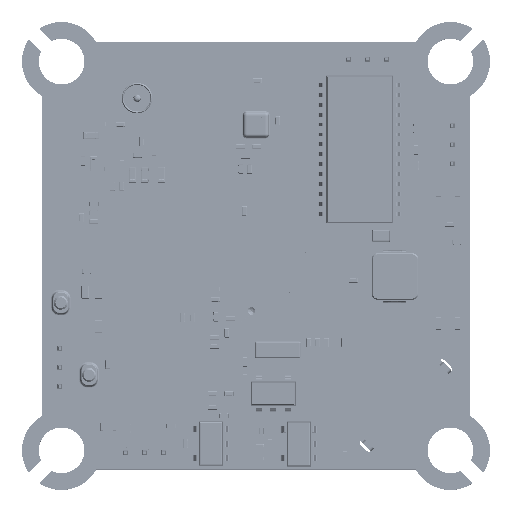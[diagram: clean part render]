
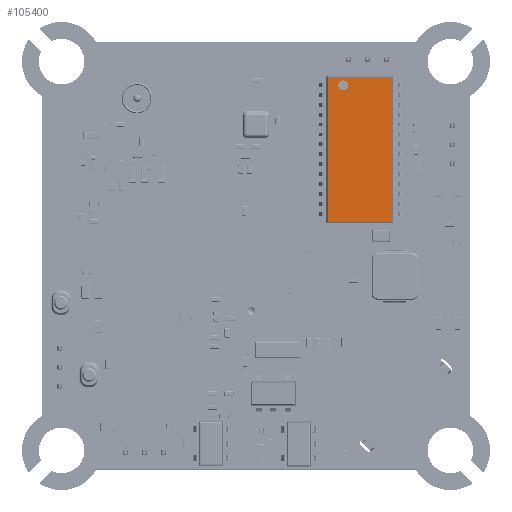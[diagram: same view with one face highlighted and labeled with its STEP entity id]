
A CAD part, top view. The second image highlights one B-rep face of the part: STEP entity #105400.
In plain terms, the highlighted planar face has unit normal (0, 0, 1).
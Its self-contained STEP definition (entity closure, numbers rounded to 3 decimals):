
#105035 = VERTEX_POINT('',#105036);
#105036 = CARTESIAN_POINT('',(3.86,1.065,1.2));
#105054 = VERTEX_POINT('',#105055);
#105055 = CARTESIAN_POINT('',(4.52,1.065,1.2));
#105061 = EDGE_CURVE('',#105054,#105035,#105062,.T.);
#105062 = CIRCLE('',#105063,0.33);
#105063 = AXIS2_PLACEMENT_3D('',#105064,#105065,#105066);
#105064 = CARTESIAN_POINT('',(4.19,1.065,1.2));
#105065 = DIRECTION('',(0.,0.,-1.));
#105066 = DIRECTION('',(-1.,0.,0.));
#105309 = VERTEX_POINT('',#105310);
#105310 = CARTESIAN_POINT('',(-4.75,2.1,1.2));
#105316 = EDGE_CURVE('',#105309,#105317,#105319,.T.);
#105317 = VERTEX_POINT('',#105318);
#105318 = CARTESIAN_POINT('',(4.75,2.1,1.2));
#105319 = LINE('',#105320,#105321);
#105320 = CARTESIAN_POINT('',(2.425,2.1,1.2));
#105321 = VECTOR('',#105322,1.);
#105322 = DIRECTION('',(1.,0.,0.));
#105342 = VERTEX_POINT('',#105343);
#105343 = CARTESIAN_POINT('',(-4.75,-2.1,1.2));
#105349 = EDGE_CURVE('',#105342,#105309,#105350,.T.);
#105350 = LINE('',#105351,#105352);
#105351 = CARTESIAN_POINT('',(-4.75,1.1,1.2));
#105352 = VECTOR('',#105353,1.);
#105353 = DIRECTION('',(0.,1.,-0.));
#105366 = VERTEX_POINT('',#105367);
#105367 = CARTESIAN_POINT('',(4.75,-2.1,1.2));
#105373 = EDGE_CURVE('',#105366,#105342,#105374,.T.);
#105374 = LINE('',#105375,#105376);
#105375 = CARTESIAN_POINT('',(-2.425,-2.1,1.2));
#105376 = VECTOR('',#105377,1.);
#105377 = DIRECTION('',(-1.,0.,0.));
#105390 = EDGE_CURVE('',#105317,#105366,#105391,.T.);
#105391 = LINE('',#105392,#105393);
#105392 = CARTESIAN_POINT('',(4.75,-1.1,1.2));
#105393 = VECTOR('',#105394,1.);
#105394 = DIRECTION('',(0.,-1.,0.));
#105400 = ADVANCED_FACE('',(#105401,#105411),#105417,.T.);
#105401 = FACE_BOUND('',#105402,.T.);
#105402 = EDGE_LOOP('',(#105403,#105410));
#105403 = ORIENTED_EDGE('',*,*,#105404,.T.);
#105404 = EDGE_CURVE('',#105035,#105054,#105405,.T.);
#105405 = CIRCLE('',#105406,0.33);
#105406 = AXIS2_PLACEMENT_3D('',#105407,#105408,#105409);
#105407 = CARTESIAN_POINT('',(4.19,1.065,1.2));
#105408 = DIRECTION('',(0.,0.,-1.));
#105409 = DIRECTION('',(-1.,0.,0.));
#105410 = ORIENTED_EDGE('',*,*,#105061,.T.);
#105411 = FACE_BOUND('',#105412,.T.);
#105412 = EDGE_LOOP('',(#105413,#105414,#105415,#105416));
#105413 = ORIENTED_EDGE('',*,*,#105349,.F.);
#105414 = ORIENTED_EDGE('',*,*,#105373,.F.);
#105415 = ORIENTED_EDGE('',*,*,#105390,.F.);
#105416 = ORIENTED_EDGE('',*,*,#105316,.F.);
#105417 = PLANE('',#105418);
#105418 = AXIS2_PLACEMENT_3D('',#105419,#105420,#105421);
#105419 = CARTESIAN_POINT('',(0.,0.,
    1.2));
#105420 = DIRECTION('',(0.,0.,1.));
#105421 = DIRECTION('',(1.,0.,-0.));
